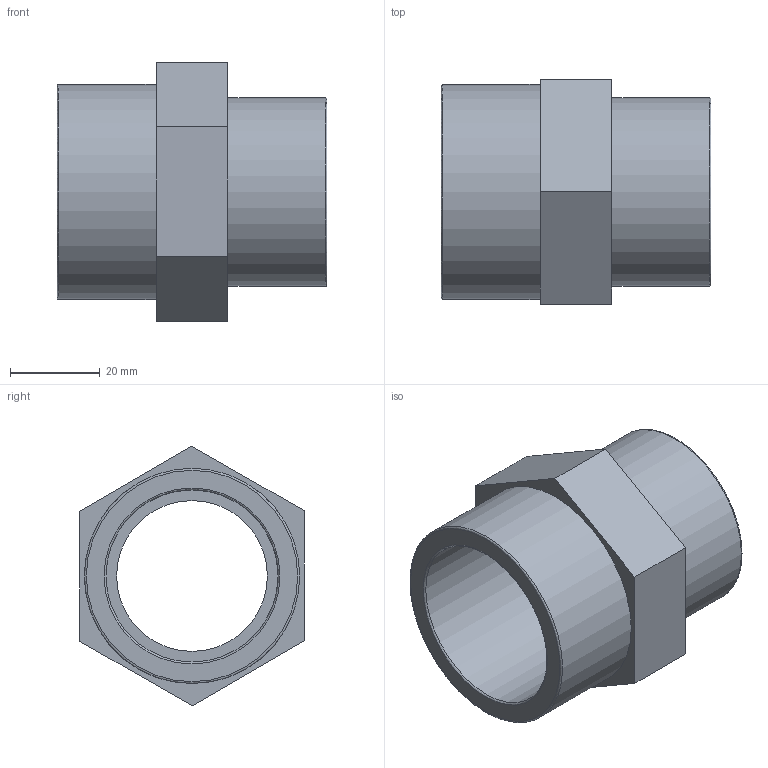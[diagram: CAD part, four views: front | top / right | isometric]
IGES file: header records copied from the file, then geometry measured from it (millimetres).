
Global section: file name: 051601015013.ipt; native system: Autodesk Inventor 2015; preprocessor: unknown; author: KIM; date: 20171207.165301; units: millimetre
Bounding box: 60 x 50.11 x 57.73 mm (x, y, z)
Volume: 42553.1 mm3; surface area: 18262.4 mm2
Topology: 1 solids, 1 shells, 19 faces, 50 edges, 36 vertices
Faces by surface type: plane 11, revolution 6, cylinder 2
Full cylindrical faces by diameter (mm): 41.91 x1, 47.803 x1
